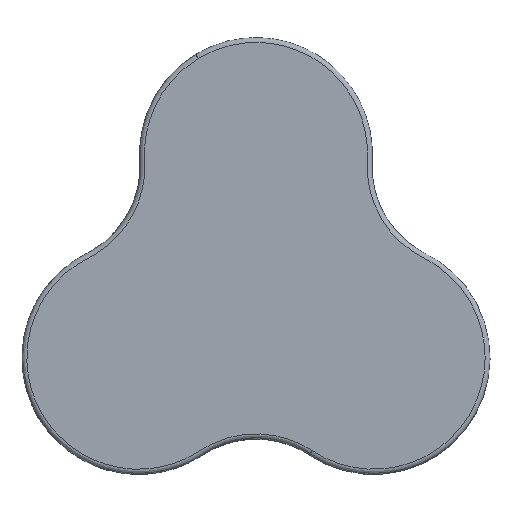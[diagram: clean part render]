
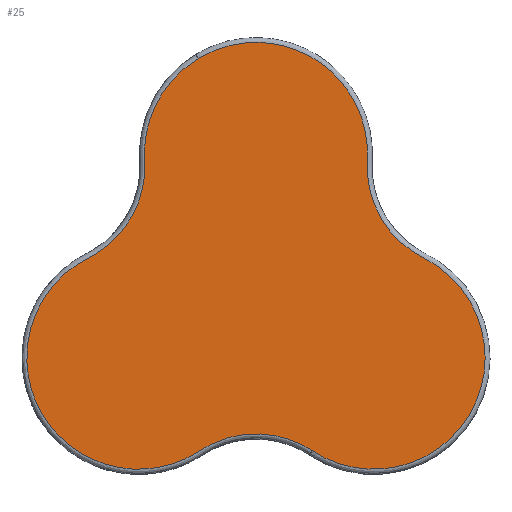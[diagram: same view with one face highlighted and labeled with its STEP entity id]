
A CAD part, top view. The second image highlights one B-rep face of the part: STEP entity #25.
In plain terms, the highlighted planar face has unit normal (0, 0, 1).
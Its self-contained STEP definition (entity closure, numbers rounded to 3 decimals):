
#25=ADVANCED_FACE('',(#42),#211,.T.);
#42=FACE_OUTER_BOUND('',#59,.T.);
#59=EDGE_LOOP('',(#79,#80));
#79=ORIENTED_EDGE('',*,*,#136,.T.);
#80=ORIENTED_EDGE('',*,*,#134,.F.);
#134=EDGE_CURVE('',#192,#193,#162,.T.);
#136=EDGE_CURVE('',#192,#193,#163,.T.);
#162=B_SPLINE_CURVE_WITH_KNOTS('',3,(#935,#936,#937,#938,#939,#940,#941,
#942,#943,#944,#945,#946,#947,#948,#949,#950,#951,#952,#953,#954,#955,#956,
#957,#958,#959,#960,#961,#962,#963,#964,#965,#966,#967,#968,#969,#970,#971,
#972,#973,#974,#975,#976,#977,#978,#979,#980,#981,#982),.UNSPECIFIED.,.F.,
 .F.,(4,2,2,2,2,2,2,2,2,2,2,2,2,2,2,2,2,2,2,2,2,2,2,4),(0.,47.104,
94.209,141.313,188.418,235.522,247.298,
253.186,259.074,282.627,306.179,329.731,
376.835,388.612,400.388,423.94,447.492,
471.044,518.149,565.253,588.805,612.358,
659.462,753.671),.UNSPECIFIED.);
#163=B_SPLINE_CURVE_WITH_KNOTS('',3,(#986,#987,#988,#989,#990,#991,#992,
#993,#994,#995,#996,#997,#998,#999,#1000,#1001,#1002,#1003,#1004,#1005,
#1006,#1007,#1008,#1009,#1010,#1011,#1012,#1013,#1014,#1015,#1016,#1017,
#1018,#1019,#1020,#1021,#1022,#1023,#1024,#1025,#1026,#1027,#1028,#1029,
#1030,#1031,#1032,#1033,#1034,#1035,#1036,#1037,#1038,#1039,#1040,#1041,
#1042,#1043,#1044,#1045),.UNSPECIFIED.,.F.,.F.,(4,2,2,2,2,2,2,2,2,2,2,2,
2,2,2,2,2,2,2,2,2,2,2,2,2,2,2,2,2,4),(-748.536,-701.753,
-678.361,-654.969,-631.577,-619.881,
-608.186,-561.402,-538.01,-514.619,
-508.771,-502.923,-491.227,-467.835,
-444.443,-421.052,-374.268,-350.876,
-327.485,-280.701,-233.918,-210.526,
-187.134,-140.351,-128.655,-122.807,
-116.959,-93.567,-46.784,0.),.UNSPECIFIED.);
#192=VERTEX_POINT('',#925);
#193=VERTEX_POINT('',#926);
#211=PLANE('',#248);
#248=AXIS2_PLACEMENT_3D('',#408,#256,$);
#256=DIRECTION('',(0.,0.,1.));
#408=CARTESIAN_POINT('',(-122.02,-323.635,266.));
#925=CARTESIAN_POINT('',(57.596,103.152,266.));
#926=CARTESIAN_POINT('',(174.945,-301.229,266.));
#935=CARTESIAN_POINT('',(57.596,103.152,266.));
#936=CARTESIAN_POINT('',(70.588,111.004,266.));
#937=CARTESIAN_POINT('',(85.175,116.258,266.));
#938=CARTESIAN_POINT('',(115.257,120.717,266.));
#939=CARTESIAN_POINT('',(130.742,119.915,266.));
#940=CARTESIAN_POINT('',(160.077,112.458,266.));
#941=CARTESIAN_POINT('',(174.12,105.725,266.));
#942=CARTESIAN_POINT('',(198.28,87.555,266.));
#943=CARTESIAN_POINT('',(208.641,75.941,266.));
#944=CARTESIAN_POINT('',(223.957,49.803,266.));
#945=CARTESIAN_POINT('',(229.016,35.179,266.));
#946=CARTESIAN_POINT('',(231.558,16.308,266.));
#947=CARTESIAN_POINT('',(231.882,12.482,266.));
#948=CARTESIAN_POINT('',(232.078,6.702,266.));
#949=CARTESIAN_POINT('',(232.096,4.767,266.));
#950=CARTESIAN_POINT('',(232.031,0.88,266.));
#951=CARTESIAN_POINT('',(231.925,-1.075,266.));
#952=CARTESIAN_POINT('',(231.417,-10.85,266.));
#953=CARTESIAN_POINT('',(231.884,-18.522,266.));
#954=CARTESIAN_POINT('',(234.443,-33.593,266.));
#955=CARTESIAN_POINT('',(236.535,-40.992,266.));
#956=CARTESIAN_POINT('',(242.468,-55.494,266.));
#957=CARTESIAN_POINT('',(246.388,-62.656,266.));
#958=CARTESIAN_POINT('',(260.13,-82.078,266.));
#959=CARTESIAN_POINT('',(272.362,-92.995,266.));
#960=CARTESIAN_POINT('',(289.868,-102.553,266.));
#961=CARTESIAN_POINT('',(293.485,-104.284,266.));
#962=CARTESIAN_POINT('',(300.336,-108.341,266.));
#963=CARTESIAN_POINT('',(303.629,-110.53,266.));
#964=CARTESIAN_POINT('',(313.122,-117.565,266.));
#965=CARTESIAN_POINT('',(318.942,-122.874,266.));
#966=CARTESIAN_POINT('',(329.528,-134.771,266.));
#967=CARTESIAN_POINT('',(334.117,-141.16,266.));
#968=CARTESIAN_POINT('',(341.945,-154.78,266.));
#969=CARTESIAN_POINT('',(345.206,-162.105,266.));
#970=CARTESIAN_POINT('',(352.542,-184.592,266.));
#971=CARTESIAN_POINT('',(354.298,-200.652,266.));
#972=CARTESIAN_POINT('',(351.291,-231.912,266.));
#973=CARTESIAN_POINT('',(346.487,-247.373,266.));
#974=CARTESIAN_POINT('',(335.035,-267.987,266.));
#975=CARTESIAN_POINT('',(330.436,-274.567,266.));
#976=CARTESIAN_POINT('',(320.132,-286.475,266.));
#977=CARTESIAN_POINT('',(314.416,-291.858,266.));
#978=CARTESIAN_POINT('',(295.548,-306.268,266.));
#979=CARTESIAN_POINT('',(281.079,-313.195,266.));
#980=CARTESIAN_POINT('',(234.913,-324.507,266.));
#981=CARTESIAN_POINT('',(201.639,-318.86,266.));
#982=CARTESIAN_POINT('',(174.945,-301.229,266.));
#986=CARTESIAN_POINT('',(57.596,103.152,266.));
#987=CARTESIAN_POINT('',(43.554,94.666,266.));
#988=CARTESIAN_POINT('',(31.302,83.042,266.));
#989=CARTESIAN_POINT('',(17.522,62.866,266.));
#990=CARTESIAN_POINT('',(13.598,55.558,266.));
#991=CARTESIAN_POINT('',(7.45,40.414,266.));
#992=CARTESIAN_POINT('',(5.253,32.712,266.));
#993=CARTESIAN_POINT('',(2.467,17.07,266.));
#994=CARTESIAN_POINT('',(1.88,9.129,266.));
#995=CARTESIAN_POINT('',(2.266,-2.971,266.));
#996=CARTESIAN_POINT('',(2.542,-7.026,266.));
#997=CARTESIAN_POINT('',(2.349,-15.025,266.));
#998=CARTESIAN_POINT('',(2.023,-18.995,266.));
#999=CARTESIAN_POINT('',(-0.688,-38.543,266.));
#1000=CARTESIAN_POINT('',(-6.454,-53.669,266.));
#1001=CARTESIAN_POINT('',(-19.514,-73.258,266.));
#1002=CARTESIAN_POINT('',(-24.676,-79.381,266.));
#1003=CARTESIAN_POINT('',(-36.121,-90.198,266.));
#1004=CARTESIAN_POINT('',(-42.351,-94.883,266.));
#1005=CARTESIAN_POINT('',(-50.758,-99.855,266.));
#1006=CARTESIAN_POINT('',(-52.471,-100.805,266.));
#1007=CARTESIAN_POINT('',(-55.961,-102.613,266.));
#1008=CARTESIAN_POINT('',(-57.727,-103.486,266.));
#1009=CARTESIAN_POINT('',(-62.882,-106.312,266.));
#1010=CARTESIAN_POINT('',(-66.209,-108.365,266.));
#1011=CARTESIAN_POINT('',(-75.782,-114.959,266.));
#1012=CARTESIAN_POINT('',(-81.645,-119.939,266.));
#1013=CARTESIAN_POINT('',(-92.349,-131.053,266.));
#1014=CARTESIAN_POINT('',(-97.205,-137.241,266.));
#1015=CARTESIAN_POINT('',(-105.447,-150.259,266.));
#1016=CARTESIAN_POINT('',(-108.898,-157.141,266.));
#1017=CARTESIAN_POINT('',(-117.183,-178.935,266.));
#1018=CARTESIAN_POINT('',(-119.697,-194.416,266.));
#1019=CARTESIAN_POINT('',(-118.758,-217.658,266.));
#1020=CARTESIAN_POINT('',(-117.673,-225.275,266.));
#1021=CARTESIAN_POINT('',(-113.985,-240.253,266.));
#1022=CARTESIAN_POINT('',(-111.343,-247.663,266.));
#1023=CARTESIAN_POINT('',(-101.422,-268.543,266.));
#1024=CARTESIAN_POINT('',(-91.887,-281.206,266.));
#1025=CARTESIAN_POINT('',(-68.844,-301.593,266.));
#1026=CARTESIAN_POINT('',(-55.12,-309.511,266.));
#1027=CARTESIAN_POINT('',(-33.173,-316.817,266.));
#1028=CARTESIAN_POINT('',(-25.496,-318.536,266.));
#1029=CARTESIAN_POINT('',(-10.19,-320.37,266.));
#1030=CARTESIAN_POINT('',(-2.495,-320.519,266.));
#1031=CARTESIAN_POINT('',(20.716,-318.614,266.));
#1032=CARTESIAN_POINT('',(35.399,-314.3,266.));
#1033=CARTESIAN_POINT('',(52.153,-305.607,266.));
#1034=CARTESIAN_POINT('',(55.433,-303.696,266.));
#1035=CARTESIAN_POINT('',(60.244,-300.559,266.));
#1036=CARTESIAN_POINT('',(61.852,-299.522,266.));
#1037=CARTESIAN_POINT('',(65.12,-297.582,266.));
#1038=CARTESIAN_POINT('',(66.774,-296.66,266.));
#1039=CARTESIAN_POINT('',(75.141,-292.288,266.));
#1040=CARTESIAN_POINT('',(82.123,-289.557,266.));
#1041=CARTESIAN_POINT('',(103.581,-283.665,266.));
#1042=CARTESIAN_POINT('',(118.854,-282.811,266.));
#1043=CARTESIAN_POINT('',(148.25,-287.48,266.));
#1044=CARTESIAN_POINT('',(162.539,-293.035,266.));
#1045=CARTESIAN_POINT('',(174.945,-301.229,266.));
